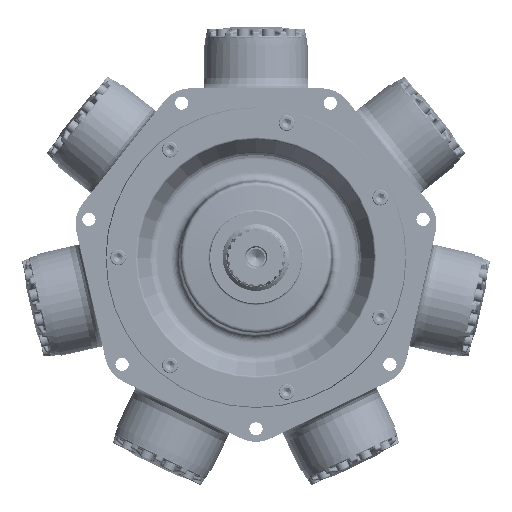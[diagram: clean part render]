
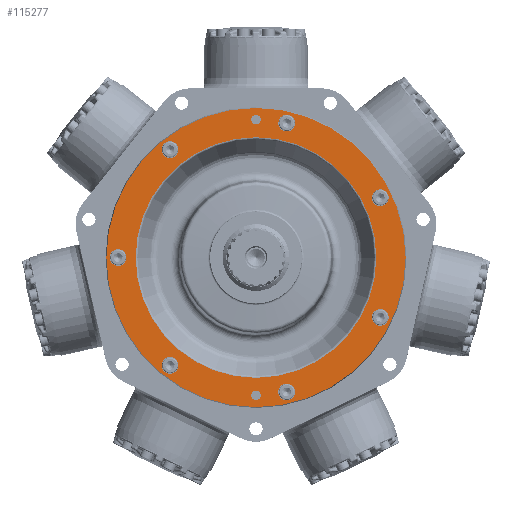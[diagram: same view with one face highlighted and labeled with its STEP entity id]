
A CAD part, top view. The second image highlights one B-rep face of the part: STEP entity #115277.
In plain terms, the highlighted planar face has unit normal (0, 0, 1).
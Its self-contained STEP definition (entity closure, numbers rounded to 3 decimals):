
#2299=FACE_BOUND('',#27625,.T.);
#2300=FACE_BOUND('',#27626,.T.);
#2301=FACE_BOUND('',#27627,.T.);
#2302=FACE_BOUND('',#27628,.T.);
#2303=FACE_BOUND('',#27629,.T.);
#2304=FACE_BOUND('',#27630,.T.);
#2305=FACE_BOUND('',#27631,.T.);
#2306=FACE_BOUND('',#27632,.T.);
#2307=FACE_BOUND('',#27633,.T.);
#2308=FACE_BOUND('',#27634,.T.);
#3475=PLANE('',#123056);
#20365=FACE_OUTER_BOUND('',#27624,.T.);
#27624=EDGE_LOOP('',(#81617));
#27625=EDGE_LOOP('',(#81618));
#27626=EDGE_LOOP('',(#81619));
#27627=EDGE_LOOP('',(#81620));
#27628=EDGE_LOOP('',(#81621));
#27629=EDGE_LOOP('',(#81622));
#27630=EDGE_LOOP('',(#81623));
#27631=EDGE_LOOP('',(#81624));
#27632=EDGE_LOOP('',(#81625));
#27633=EDGE_LOOP('',(#81626));
#27634=EDGE_LOOP('',(#81627));
#33705=CIRCLE('',#123052,182.808);
#33707=CIRCLE('',#123057,227.279);
#33708=CIRCLE('',#123058,7.176);
#33709=CIRCLE('',#123059,7.176);
#33710=CIRCLE('',#123060,12.7);
#33711=CIRCLE('',#123061,12.7);
#33712=CIRCLE('',#123062,12.7);
#33713=CIRCLE('',#123063,12.7);
#33714=CIRCLE('',#123064,12.7);
#33715=CIRCLE('',#123065,12.7);
#33716=CIRCLE('',#123066,12.7);
#46055=VERTEX_POINT('',#195106);
#46057=VERTEX_POINT('',#195115);
#46058=VERTEX_POINT('',#195117);
#46059=VERTEX_POINT('',#195119);
#46060=VERTEX_POINT('',#195121);
#46061=VERTEX_POINT('',#195123);
#46062=VERTEX_POINT('',#195125);
#46063=VERTEX_POINT('',#195127);
#46064=VERTEX_POINT('',#195129);
#46065=VERTEX_POINT('',#195131);
#46066=VERTEX_POINT('',#195133);
#58557=EDGE_CURVE('',#46055,#46055,#33705,.T.);
#58560=EDGE_CURVE('',#46057,#46057,#33707,.T.);
#58561=EDGE_CURVE('',#46058,#46058,#33708,.T.);
#58562=EDGE_CURVE('',#46059,#46059,#33709,.T.);
#58563=EDGE_CURVE('',#46060,#46060,#33710,.T.);
#58564=EDGE_CURVE('',#46061,#46061,#33711,.T.);
#58565=EDGE_CURVE('',#46062,#46062,#33712,.T.);
#58566=EDGE_CURVE('',#46063,#46063,#33713,.T.);
#58567=EDGE_CURVE('',#46064,#46064,#33714,.T.);
#58568=EDGE_CURVE('',#46065,#46065,#33715,.T.);
#58569=EDGE_CURVE('',#46066,#46066,#33716,.T.);
#81617=ORIENTED_EDGE('',*,*,#58560,.F.);
#81618=ORIENTED_EDGE('',*,*,#58561,.T.);
#81619=ORIENTED_EDGE('',*,*,#58562,.T.);
#81620=ORIENTED_EDGE('',*,*,#58563,.T.);
#81621=ORIENTED_EDGE('',*,*,#58564,.T.);
#81622=ORIENTED_EDGE('',*,*,#58565,.T.);
#81623=ORIENTED_EDGE('',*,*,#58566,.T.);
#81624=ORIENTED_EDGE('',*,*,#58567,.T.);
#81625=ORIENTED_EDGE('',*,*,#58568,.T.);
#81626=ORIENTED_EDGE('',*,*,#58569,.T.);
#81627=ORIENTED_EDGE('',*,*,#58557,.F.);
#115277=ADVANCED_FACE('',(#20365,#2299,#2300,#2301,#2302,#2303,#2304,#2305,
#2306,#2307,#2308),#3475,.T.);
#123052=AXIS2_PLACEMENT_3D('',#195108,#137869,#137870);
#123056=AXIS2_PLACEMENT_3D('',#195114,#137878,#137879);
#123057=AXIS2_PLACEMENT_3D('',#195116,#137880,#137881);
#123058=AXIS2_PLACEMENT_3D('',#195118,#137882,#137883);
#123059=AXIS2_PLACEMENT_3D('',#195120,#137884,#137885);
#123060=AXIS2_PLACEMENT_3D('',#195122,#137886,#137887);
#123061=AXIS2_PLACEMENT_3D('',#195124,#137888,#137889);
#123062=AXIS2_PLACEMENT_3D('',#195126,#137890,#137891);
#123063=AXIS2_PLACEMENT_3D('',#195128,#137892,#137893);
#123064=AXIS2_PLACEMENT_3D('',#195130,#137894,#137895);
#123065=AXIS2_PLACEMENT_3D('',#195132,#137896,#137897);
#123066=AXIS2_PLACEMENT_3D('',#195134,#137898,#137899);
#137869=DIRECTION('center_axis',(0.,0.,
1.));
#137870=DIRECTION('ref_axis',(1.,0.,0.));
#137878=DIRECTION('center_axis',(0.,0.,
1.));
#137879=DIRECTION('ref_axis',(0.,1.,0.));
#137880=DIRECTION('center_axis',(0.,0.,
-1.));
#137881=DIRECTION('ref_axis',(0.,1.,0.));
#137882=DIRECTION('center_axis',(0.,0.,
-1.));
#137883=DIRECTION('ref_axis',(1.,0.,0.));
#137884=DIRECTION('center_axis',(0.,0.,
-1.));
#137885=DIRECTION('ref_axis',(1.,0.,0.));
#137886=DIRECTION('center_axis',(0.,0.,
-1.));
#137887=DIRECTION('ref_axis',(-0.623,0.782,0.));
#137888=DIRECTION('center_axis',(0.,0.,
-1.));
#137889=DIRECTION('ref_axis',(0.223,0.975,0.));
#137890=DIRECTION('center_axis',(0.,0.,
-1.));
#137891=DIRECTION('ref_axis',(0.901,0.434,0.));
#137892=DIRECTION('center_axis',(0.,0.,
-1.));
#137893=DIRECTION('ref_axis',(0.901,-0.434,0.));
#137894=DIRECTION('center_axis',(0.,0.,
-1.));
#137895=DIRECTION('ref_axis',(0.223,-0.975,0.));
#137896=DIRECTION('center_axis',(0.,0.,
-1.));
#137897=DIRECTION('ref_axis',(-0.623,-0.782,0.));
#137898=DIRECTION('center_axis',(0.,0.,
-1.));
#137899=DIRECTION('ref_axis',(-1.,0.,0.));
#195106=CARTESIAN_POINT('',(0.,-182.808,123.104));
#195108=CARTESIAN_POINT('Origin',(0.,0.,
123.104));
#195114=CARTESIAN_POINT('Origin',(-206.375,0.,123.104));
#195115=CARTESIAN_POINT('',(0.,-227.279,123.104));
#195116=CARTESIAN_POINT('Origin',(0.,0.,
123.104));
#195117=CARTESIAN_POINT('',(-7.175,209.55,123.104));
#195118=CARTESIAN_POINT('Origin',(0.,209.55,123.104));
#195119=CARTESIAN_POINT('',(-7.176,-209.55,123.104));
#195120=CARTESIAN_POINT('Origin',(0.,-209.55,123.104));
#195121=CARTESIAN_POINT('',(-122.734,153.904,123.104));
#195122=CARTESIAN_POINT('Origin',(-130.652,163.833,123.104));
#195123=CARTESIAN_POINT('',(43.803,191.915,123.104));
#195124=CARTESIAN_POINT('Origin',(46.629,204.296,123.104));
#195125=CARTESIAN_POINT('',(177.356,85.41,123.104));
#195126=CARTESIAN_POINT('Origin',(188.798,90.92,123.104));
#195127=CARTESIAN_POINT('',(177.356,-85.41,123.104));
#195128=CARTESIAN_POINT('Origin',(188.798,-90.92,123.104));
#195129=CARTESIAN_POINT('',(43.803,-191.915,123.104));
#195130=CARTESIAN_POINT('Origin',(46.629,-204.296,123.104));
#195131=CARTESIAN_POINT('',(-122.734,-153.904,123.104));
#195132=CARTESIAN_POINT('Origin',(-130.652,-163.833,123.104));
#195133=CARTESIAN_POINT('',(-196.85,0.,123.104));
#195134=CARTESIAN_POINT('Origin',(-209.55,0.,123.104));
